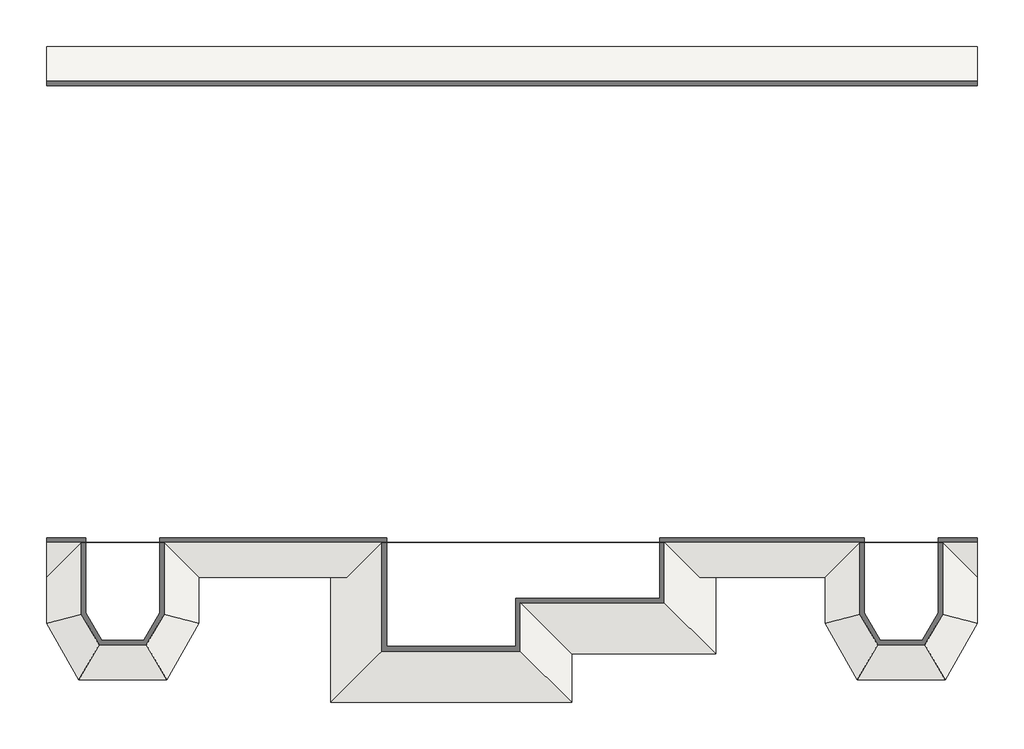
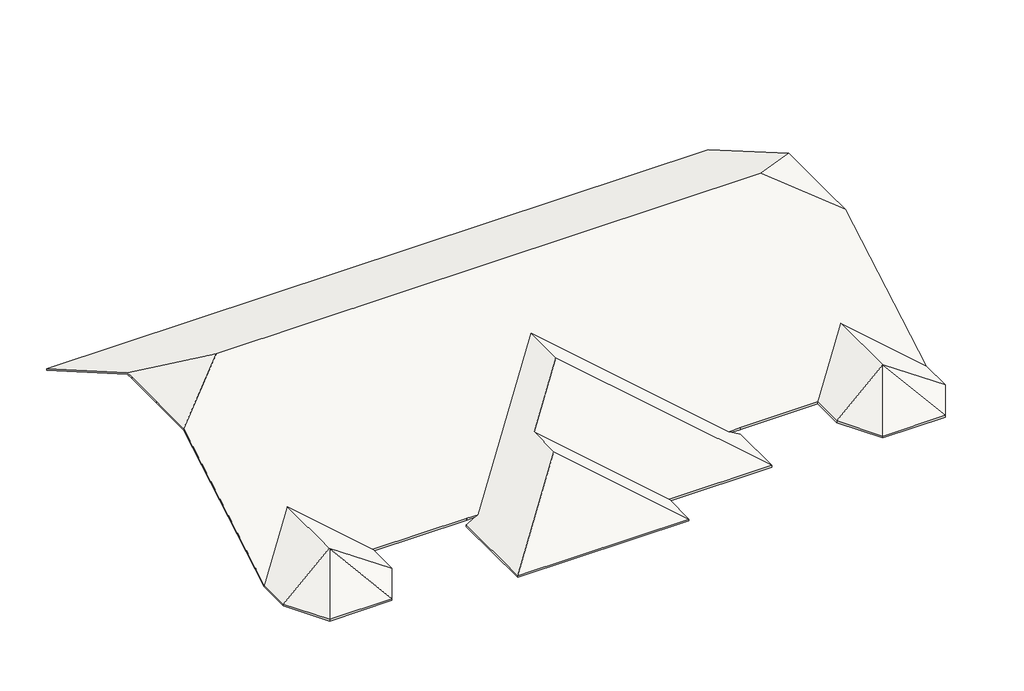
# One storey: 1 roof.
"""IFC4 building model written with IfcOpenShell, lengths in millimetres."""

from ifc_helpers import new_model, si_unit, origin, place, context, project, spatial, faceted_brep, element, save

model = new_model("IFC4")

# Units and contexts
model_context = context("Model", 3, world=origin())
ifc_project = project(units=[si_unit("LENGTHUNIT", "METRE", prefix="MILLI")], contexts=[model_context])

# Site, building, storey
site = spatial("IfcSite", under=ifc_project)
building = spatial("IfcBuilding", under=site)
storey = spatial("IfcBuildingStorey", under=building, Name="樓層 3", Elevation=6500.0)

# Roof
placement = place(None, origin())
element("IfcRoof", 1, ObjectType="一般 - 12cm", at=placement, inside=storey, context=model_context, shape_type="Brep", body=[
    faceted_brep([(-19625.7078943, 5752.3440967, 12500.0), (-19625.7078943, 6285.0392513, 12500.0), (-15122.3047315, 2677.3440967, 14582.9037687), (-19625.7078943, -930.3510579, 12500.0), (-19625.7078943, 2602.3440967, 12500.0), (-19625.7078943, -11322.6559033, 6500.0), (-15606.747554, -7303.695563, 8820.3478343), (-15606.747554, -12684.7352228, 8820.3478343), (-19625.7078943, -13761.6124004, 6500.0), (21417.411085, -13761.6124004, 6500.0), (25436.3714252, -12684.7352228, 8820.3478343), (25436.3714252, -12722.6559033, 8809.4010768), (23126.9703485, -16722.6559033, 6500.0), (27745.772502, -16722.6559033, 6500.0), (29455.3317655, -13761.6124004, 6500.0), (-13297.3464773, -16722.6559033, 6500.0), (-15606.747554, -12722.6559033, 8809.4010768), (-11587.7872138, -13761.6124004, 6500.0), (-17916.1486308, -16722.6559033, 6500.0), (-11587.7872138, -11322.6559033, 6500.0), (25289.5242282, 2677.3440967, 14582.9037687), (29455.3317655, -930.3510579, 12500.0), (29455.3317655, -11322.6559033, 6500.0), (25436.3714252, -7303.695563, 8820.3478343), (21417.411085, -11322.6559033, 6500.0), (15645.3317655, -11322.6559033, 6500.0), (15645.3317655, -11332.6559033, 6494.2264973), (15039.3063617, -11332.6559033, 6494.2264973), (14799.3063617, -11332.6559033, 6494.2264973), (5505.3317655, -2038.6813071, 11860.1052323), (-3788.6428307, -11332.6559033, 6494.2264973), (-4028.6428307, -11332.6559033, 6494.2264973), (-4634.6682345, -11332.6559033, 6494.2264973), (-4634.6682345, -11322.6559033, 6500.0), (-4644.6682345, -11332.6559033, 6000.0), (-4634.6682345, -11332.6559033, 6005.7735027), (5505.3317655, -5223.2655687, 11860.1052323), (1705.3317655, -9023.2655687, 9666.1742094), (1705.3317655, -11572.6559033, 9666.1742094), (-4644.6682345, -17922.6559033, 6000.0), (29455.3317655, 1102.3440967, 12500.0), (29455.3317655, 6285.0392513, 12500.0), (29455.3317655, 4252.3440967, 12500.0), (-19625.7078943, 16677.3440967, 6500.0), (29455.3317655, 16677.3440967, 6500.0), (8055.3317655, -17922.6559033, 6000.0), (8055.3317655, -15373.2655687, 6000.0), (15655.3317655, -15373.2655687, 6000.0), (15645.3317655, -11332.6559033, 6005.7735027), (15655.3317655, -11332.6559033, 6000.0), (-19625.7078943, 5752.3440967, 12632.2137892), (-19625.7078943, 2602.3440967, 12632.2137892), (-19625.7078943, -941.3500575, 12632.2137892), (-15108.5749324, 2677.3440967, 14721.4678333), (-19625.7078943, 6296.038251, 12632.2137892), (-19625.7078943, -11322.6559033, 6638.5640646), (-19625.7078943, -13761.6124004, 6638.5640646), (-15606.747554, -12684.7352228, 8958.9118989), (-15606.747554, -7303.695563, 8958.9118989), (-4644.6682345, -17922.6559033, 6138.5640646), (8055.3317655, -17922.6559033, 6138.5640646), (1705.3317655, -11572.6559033, 9804.738274), (21417.411085, -13761.6124004, 6638.5640646), (23126.9703485, -16722.6559033, 6638.5640646), (25436.3714252, -12722.6559033, 8947.9651414), (25436.3714252, -12684.7352228, 8958.9118989), (27745.772502, -16722.6559033, 6638.5640646), (29455.3317655, -13761.6124004, 6638.5640646), (-13297.3464773, -16722.6559033, 6638.5640646), (-11587.7872138, -13761.6124004, 6638.5640646), (-15606.747554, -12722.6559033, 8947.9651414), (-17916.1486308, -16722.6559033, 6638.5640646), (-11587.7872138, -11322.6559033, 6638.5640646), (-4634.6682345, -11322.6559033, 6638.5640646), (-4634.6682345, -11332.6559033, 6632.7905619), (-3788.6428307, -11332.6559033, 6632.7905619), (5505.3317655, -2038.6813071, 11998.6692969), (14799.3063617, -11332.6559033, 6632.7905619), (15645.3317655, -11332.6559033, 6632.7905619), (15645.3317655, -11322.6559033, 6638.5640646), (21417.411085, -11322.6559033, 6638.5640646), (25436.3714252, -7303.695563, 8958.9118989), (29455.3317655, -11322.6559033, 6638.5640646), (29455.3317655, -937.9720571, 12634.1640787), (25280.7242563, 2677.3440967, 14721.4678333), (-4634.6682345, -11332.6559033, 6144.3375673), (-4644.6682345, -11332.6559033, 6138.5640646), (1705.3317655, -9023.2655687, 9804.738274), (5505.3317655, -5223.2655687, 11998.6692969), (29455.3317655, 1102.3440967, 12634.1640787), (29455.3317655, 4252.3440967, 12634.1640787), (29455.3317655, 6292.6602505, 12634.1640787), (-19625.7078943, 16677.3440967, 6638.5640646), (29455.3317655, 16677.3440967, 6638.5640646), (8055.3317655, -15373.2655687, 6138.5640646), (15655.3317655, -15373.2655687, 6138.5640646), (15655.3317655, -11332.6559033, 6138.5640646), (15645.3317655, -11332.6559033, 6144.3375673)], [[[0, 1, 2, 3, 4]], [[5, 6, 7, 8]], [[9, 10, 11, 12]], [[13, 11, 10, 14]], [[15, 16, 7, 17]], [[8, 7, 16, 18]], [[17, 7, 6, 19]], [[18, 16, 15]], [[5, 3, 2, 20, 21, 22, 23, 24, 25, 26, 27, 28, 29, 30, 31, 32, 33, 19, 6]], [[34, 35, 30, 29, 36, 37, 38, 39]], [[40, 21, 20, 41, 42]], [[43, 44, 41, 20, 2, 1]], [[45, 38, 37, 46]], [[39, 38, 45]], [[47, 36, 29, 28, 48, 49]], [[12, 11, 13]], [[14, 10, 23, 22]], [[24, 23, 10, 9]], [[46, 37, 36, 47]], [[50, 51, 52, 53, 54]], [[55, 56, 57, 58]], [[59, 60, 61]], [[62, 63, 64, 65]], [[66, 67, 65, 64]], [[68, 69, 57, 70]], [[56, 71, 70, 57]], [[69, 72, 58, 57]], [[71, 68, 70]], [[55, 58, 72, 73, 74, 75, 76, 77, 78, 79, 80, 81, 82, 83, 84, 53, 52]], [[85, 86, 59, 61, 87, 88, 76, 75, 31]], [[89, 90, 91, 84, 83]], [[92, 54, 53, 84, 91, 93]], [[60, 94, 87, 61]], [[95, 96, 97, 27, 77, 76, 88]], [[63, 66, 64]], [[67, 82, 81, 65]], [[80, 62, 65, 81]], [[94, 95, 88, 87]], [[8, 56, 55, 5]], [[18, 71, 56, 8]], [[15, 68, 71, 18]], [[17, 69, 68, 15]], [[19, 72, 69, 17]], [[33, 73, 72, 19]], [[39, 59, 86, 34]], [[45, 60, 59, 39]], [[46, 94, 60, 45]], [[47, 95, 94, 46]], [[49, 96, 95, 47]], [[24, 80, 79, 25]], [[9, 62, 80, 24]], [[12, 63, 62, 9]], [[13, 66, 63, 12]], [[14, 67, 66, 13]], [[22, 82, 67, 14]], [[43, 92, 93, 44]], [[50, 54, 92, 43, 1, 0]], [[89, 83, 82, 22, 21, 40]], [[51, 50, 0, 4]], [[55, 52, 51, 4, 3, 5]], [[93, 91, 90, 42, 41, 44]], [[90, 89, 40, 42]], [[86, 85, 31, 30, 35, 34]], [[31, 75, 74, 32]], [[74, 73, 33, 32]], [[78, 77, 27, 26]], [[27, 97, 96, 49, 48, 28]], [[79, 78, 26, 25]]]),
])

save(model, "model.ifc")
